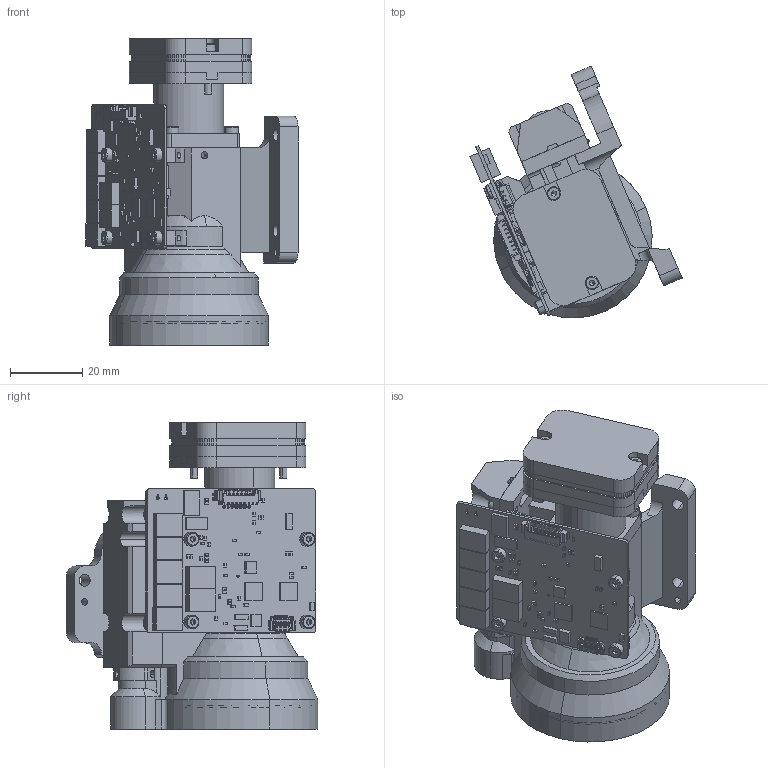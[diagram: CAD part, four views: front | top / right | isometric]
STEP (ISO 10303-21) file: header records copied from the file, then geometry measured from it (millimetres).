
FILE_DESCRIPTION (( 'STEP AP203' ), '1' );
FILE_NAME ('GTX8.0-25X（一体外发）429.STEP', '2024-04-29T07:30:14', ( '' ), ( '' ), 'SwSTEP 2.0', 'SolidWorks 2019', '' );
FILE_SCHEMA (( 'CONFIG_CONTROL_DESIGN' ));
Length unit declared in the file: millimetre
Products named in the file (400): 1322138312^C44_154-HG40GW-EN-TTLV21_GTX8.0-25X______202310052.STEP.STEP; Extruded-1^1322138176_R56_154-HG40GW-EN-TTLV21_GTX8.0-25X______(1).STEP.STEP; R7^154-HG40GW-EN-TTLV21_GTX8.0-25X______202310052.STEP.STEP; Extruded-1^1322138176_R29_154-HG40GW-EN-TTLV21_GTX8.0-25X______(1).STEP.STEP; Extruded-2^1322140352_CP16_154-HG40GW-EN-TTLV21_GTX8.0-25X______(1).STEP.STEP; Extruded-1^1322138176_R49_154-HG40GW-EN-TTLV21_GTX8.0-25X______(1).STEP.STEP; Extruded^1322138312_RS2_154-HG40GW-EN-TTLV21_GTX8.0-25X______(1).STEP.STEP; R59^154-HG40GW-EN-TTLV21_GTX8.0-25X______202310052.STEP.STEP; C23^154-HG40GW-EN-TTLV21_GTX8.0-25X______202310052.STEP.STEP; Extruded-4^1322139672_Cap1_154-HG40GW-EN-TTLV21_GTX8.0-25X______(1).STEP.STEP; Extruded-1^1322138176_R55_154-HG40GW-EN-TTLV21_GTX8.0-25X______(1).STEP.STEP; 1322138312^C30_154-HG40GW-EN-TTLV21_GTX8.0-25X______202310052.STEP.STEP; 1322138312^C46_154-HG40GW-EN-TTLV21_GTX8.0-25X______202310052.STEP.STEP; Cap12^154-HG40GW-EN-TTLV21_GTX8.0-25X______202310052.STEP.STEP; Extruded-1^1322138176_CP19_154-HG40GW-EN-TTLV21_GTX8.0-25X______(1).STEP.STEP; 1322141712^DIN_154-HG40GW-EN-TTLV21_GTX8.0-25X______202310052.STEP.STEP; Extruded-11^1322140896_Dt_154-HG40GW-EN-TTLV21_GTX8.0-25X______(1).STEP.STEP; DP1^154-HG40GW-EN-TTLV21_GTX8.0-25X______202310052.STEP.STEP; Extruded-1^1322138176_CP15_154-HG40GW-EN-TTLV21_GTX8.0-25X______(1).STEP.STEP; R2^154-HG40GW-EN-TTLV21_GTX8.0-25X______202310052.STEP.STEP; 1322138584^U3_154-HG40GW-EN-TTLV21_GTX8.0-25X______202310052.STEP.STEP; C7^154-HG40GW-EN-TTLV21_GTX8.0-25X______202310052.STEP.STEP; 1322139672^Cap5_154-HG40GW-EN-TTLV21_GTX8.0-25X______202310052.STEP.STEP; 1322138176^R38_154-HG40GW-EN-TTLV21_GTX8.0-25X______202310052.STEP.STEP; JT1^154-HG40GW-EN-TTLV21_GTX8.0-25X______202310052.STEP.STEP; Extruded-1^1322138176_R46_154-HG40GW-EN-TTLV21_GTX8.0-25X______(1).STEP.STEP; Extruded-1^1322138176_C10_154-HG40GW-EN-TTLV21_GTX8.0-25X______(1).STEP.STEP; 1322138312^R3_154-HG40GW-EN-TTLV21_GTX8.0-25X______202310052.STEP.STEP; 1322138176^C1_154-HG40GW-EN-TTLV21_GTX8.0-25X______202310052.STEP.STEP; Extruded-4^1322139672_Cap3_154-HG40GW-EN-TTLV21_GTX8.0-25X______(1).STEP.STEP; 1322139672^Cap8_154-HG40GW-EN-TTLV21_GTX8.0-25X______202310052.STEP.STEP; RS2^154-HG40GW-EN-TTLV21_GTX8.0-25X______202310052.STEP.STEP; Extruded^1322138312_R9_154-HG40GW-EN-TTLV21_GTX8.0-25X______(1).STEP.STEP; 1322139672^Cap14_154-HG40GW-EN-TTLV21_GTX8.0-25X______202310052.STEP.STEP; Extruded-19^1322138584_U3_154-HG40GW-EN-TTLV21_GTX8.0-25X______(1).STEP.STEP; 1322138176^R58_154-HG40GW-EN-TTLV21_GTX8.0-25X______202310052.STEP.STEP; Extruded-24^1322141168_U4_154-HG40GW-EN-TTLV21_GTX8.0-25X______(1).STEP.STEP; Rs1^154-HG40GW-EN-TTLV21_GTX8.0-25X______202310052.STEP.STEP; C46^154-HG40GW-EN-TTLV21_GTX8.0-25X______202310052.STEP.STEP; Extruded^1322138312_C41_154-HG40GW-EN-TTLV21_GTX8.0-25X______(1).STEP.STEP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
Assembly tree (420 placements, depth 6):
  GTX8.0-25X（一体外发）429
    GTX8.0-25X（一体外发）.STEP
      ZT_ASM_46_ASM(0.3mrad)-1.STEP.STEP
        ZHENGJI_ASM_374_ASM(0.3mrad)-1.STEP-1.STEP
          ZHUJIZUO_153(0.3mrad)-20230201.STEP.STEP
          40______(__APD)-1.STEP.STEP
          ____APD20230917.STEP
          8-25X APD____20230917.STEP
          8-25X______2 20230917.STEP
          8-25X______1 20230917.STEP
      ________________(25X____________)20230201.STEP.STEP
        spring lock washers--normal type gb_GB_FASTENER_WASHER_SW 2.STEP.STEP  x2
        plain washers-s series-grade a gb_GB_FASTENER_WASHER_PWSA 2.STEP.STEP  x2
        hexagon socket head cap screws gb223444423_GB_FASTENER_SCREWS_HSHCS M2X5-N.STEP.STEP  x2
      154-HG40GW-EN-TTLV21^GTX8.0-25X______202310052.STEP.STEP
        RP7^154-HG40GW-EN-TTLV21_GTX8.0-25X______202310052.STEP.STEP
          1322138312^RP7_154-HG40GW-EN-TTLV21_GTX8.0-25X______202310052.STEP.STEP
            Extruded^1322138312_RP7_154-HG40GW-EN-TTLV21_GTX8.0-25X______(1).STEP.STEP
        RP6^154-HG40GW-EN-TTLV21_GTX8.0-25X______202310052.STEP.STEP
          1322138312^RP6_154-HG40GW-EN-TTLV21_GTX8.0-25X______202310052.STEP.STEP
            Extruded^1322138312_RP6_154-HG40GW-EN-TTLV21_GTX8.0-25X______(1).STEP.STEP
        R9^154-HG40GW-EN-TTLV21_GTX8.0-25X______202310052.STEP.STEP
          1322138312^R9_154-HG40GW-EN-TTLV21_GTX8.0-25X______202310052.STEP.STEP
            Extruded^1322138312_R9_154-HG40GW-EN-TTLV21_GTX8.0-25X______(1).STEP.STEP
        R8^154-HG40GW-EN-TTLV21_GTX8.0-25X______202310052.STEP.STEP
          1322138312^R8_154-HG40GW-EN-TTLV21_GTX8.0-25X______202310052.STEP.STEP
            Extruded^1322138312_R8_154-HG40GW-EN-TTLV21_GTX8.0-25X______(1).STEP.STEP
        DP4^154-HG40GW-EN-TTLV21_GTX8.0-25X______202310052.STEP.STEP
          1322141576^DP4_154-HG40GW-EN-TTLV21_GTX8.0-25X______202310052.STEP.STEP
            Extruded-0^1322141576_DP4_154-HG40GW-EN-TTLV21_GTX8.0-25X______(1).STEP.STEP
        R38^154-HG40GW-EN-TTLV21_GTX8.0-25X______202310052.STEP.STEP
          1322138176^R38_154-HG40GW-EN-TTLV21_GTX8.0-25X______202310052.STEP.STEP
            Extruded-1^1322138176_R38_154-HG40GW-EN-TTLV21_GTX8.0-25X______(1).STEP.STEP
        R37^154-HG40GW-EN-TTLV21_GTX8.0-25X______202310052.STEP.STEP
          1322138176^R37_154-HG40GW-EN-TTLV21_GTX8.0-25X______202310052.STEP.STEP
            Extruded-1^1322138176_R37_154-HG40GW-EN-TTLV21_GTX8.0-25X______(1).STEP.STEP
        C28^154-HG40GW-EN-TTLV21_GTX8.0-25X______202310052.STEP.STEP
          1322138312^C28_154-HG40GW-EN-TTLV21_GTX8.0-25X______202310052.STEP.STEP
            Extruded^1322138312_C28_154-HG40GW-EN-TTLV21_GTX8.0-25X______(1).STEP.STEP
        C27^154-HG40GW-EN-TTLV21_GTX8.0-25X______202310052.STEP.STEP
          1322138312^C27_154-HG40GW-EN-TTLV21_GTX8.0-25X______202310052.STEP.STEP
            Extruded^1322138312_C27_154-HG40GW-EN-TTLV21_GTX8.0-25X______(1).STEP.STEP
        CP2^154-HG40GW-EN-TTLV21_GTX8.0-25X______202310052.STEP.STEP
          1322140352^CP2_154-HG40GW-EN-TTLV21_GTX8.0-25X______202310052.STEP.STEP
            Extruded-2^1322140352_CP2_154-HG40GW-EN-TTLV21_GTX8.0-25X______(1).STEP.STEP
        CP3^154-HG40GW-EN-TTLV21_GTX8.0-25X______202310052.STEP.STEP
          1322140488^CP3_154-HG40GW-EN-TTLV21_GTX8.0-25X______202310052.STEP.STEP
            Extruded-3^1322140488_CP3_154-HG40GW-EN-TTLV21_GTX8.0-25X______(1).STEP.STEP
        Cap14^154-HG40GW-EN-TTLV21_GTX8.0-25X______202310052.STEP.STEP
          1322139672^Cap14_154-HG40GW-EN-TTLV21_GTX8.0-25X______202310052.STEP.STEP
            Extruded-4^1322139672_Cap14_154-HG40GW-EN-TTLV21_GTX8.0-25X______(1).STEP.STEP
        Cap13^154-HG40GW-EN-TTLV21_GTX8.0-25X______202310052.STEP.STEP
          1322139672^Cap13_154-HG40GW-EN-TTLV21_GTX8.0-25X______202310052.STEP.STEP
            Extruded-4^1322139672_Cap13_154-HG40GW-EN-TTLV21_GTX8.0-25X______(1).STEP.STEP
        Cap12^154-HG40GW-EN-TTLV21_GTX8.0-25X______202310052.STEP.STEP
          1322139672^Cap12_154-HG40GW-EN-TTLV21_GTX8.0-25X______202310052.STEP.STEP
            Extruded-4^1322139672_Cap12_154-HG40GW-EN-TTLV21_GTX8.0-25X______(1).STEP.STEP
        Cap11^154-HG40GW-EN-TTLV21_GTX8.0-25X______202310052.STEP.STEP
          1322139672^Cap11_154-HG40GW-EN-TTLV21_GTX8.0-25X______202310052.STEP.STEP
            Extruded-4^1322139672_Cap11_154-HG40GW-EN-TTLV21_GTX8.0-25X______(1).STEP.STEP
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Bounding box: 58.85 x 69.83 x 85.18 mm (x, y, z)
Volume: 50892.3 mm3; surface area: 59164 mm2
Topology: 176 solids, 178 shells, 6324 faces, 16662 edges, 10915 vertices
Faces by surface type: plane 3995, cylinder 1030, bspline 954, cone 278, torus 54, sphere 13
Entity records: 307412 total; most frequent: CARTESIAN_POINT 123040, ORIENTED_EDGE 31252, DIRECTION 25447, EDGE_CURVE 15626, LINE 10857, VECTOR 10857, VERTEX_POINT 10310, AXIS2_PLACEMENT_3D 7295
